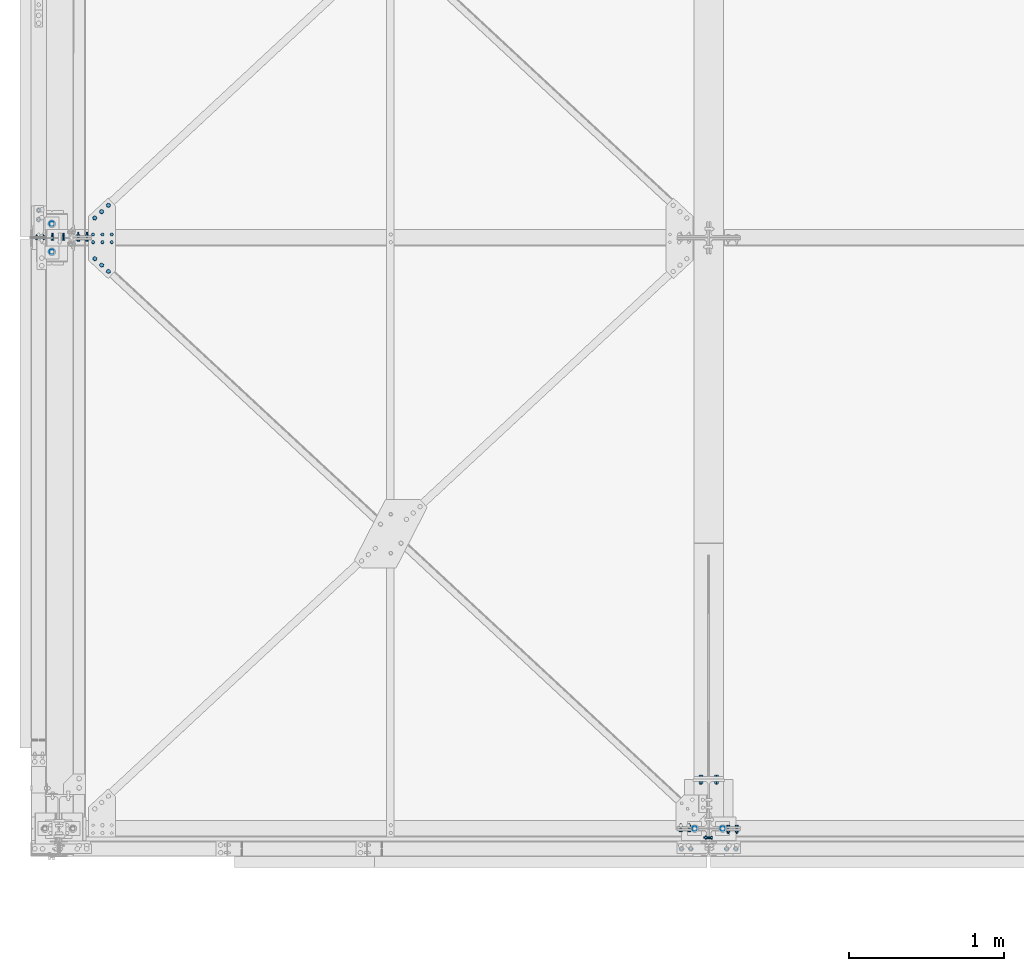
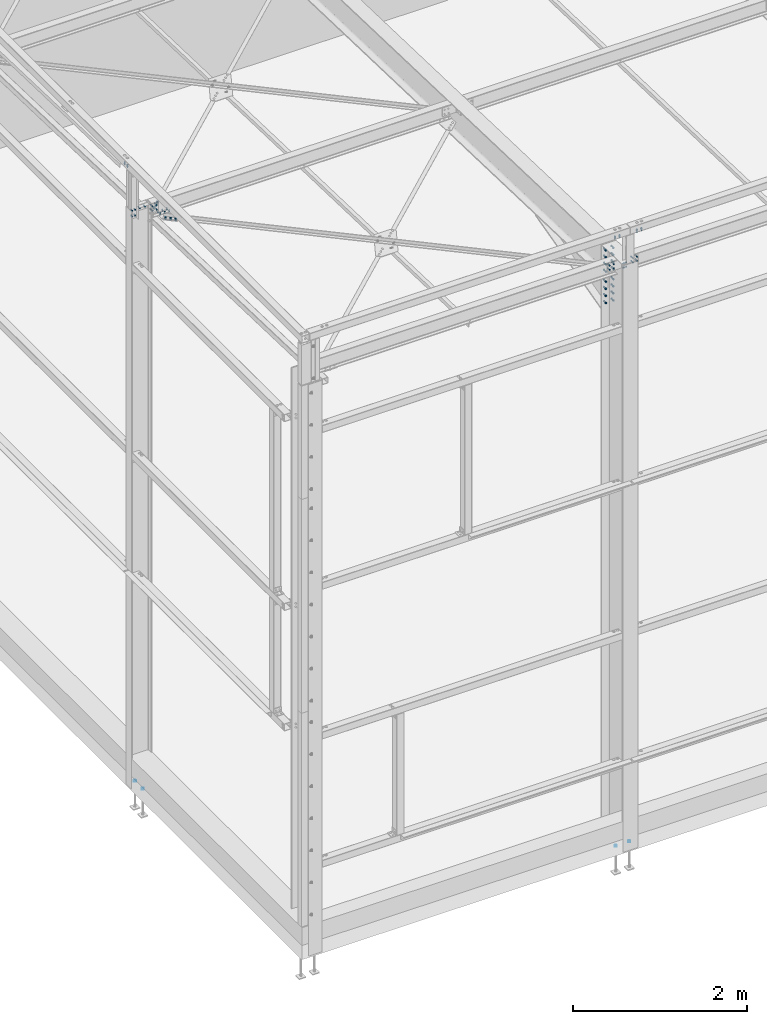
# One storey, part 142 of 362: 15 mechanical fasteners.
"""IFC2X3 building model written with IfcOpenShell, lengths in millimetres."""

from ifc_helpers import new_model, si_unit, frame, frame_2d, origin_with_axes, origin_2d_with_axis, place, context, subcontext, project, spatial, polyline, circle_curve, parameter, trimmed, segment, composite_curve, circle, outline, extrude, source, transform, mapped, material, type_object, element, save


model = new_model("IFC2X3")

# Units and contexts
model_context = context("Model", 3, precision=1e-05, world=origin_with_axes())
body_context = subcontext(model_context, "Body", "Model", "MODEL_VIEW")
ifc_project = project(units=[si_unit("LENGTHUNIT", "METRE", prefix="MILLI"), si_unit("AREAUNIT", "SQUARE_METRE"), si_unit("VOLUMEUNIT", "CUBIC_METRE"), si_unit("MASSUNIT", "GRAM", prefix="KILO"), si_unit("TIMEUNIT", "SECOND"), si_unit("PLANEANGLEUNIT", "RADIAN"), si_unit("SOLIDANGLEUNIT", "STERADIAN"), si_unit("THERMODYNAMICTEMPERATUREUNIT", "DEGREE_CELSIUS"), si_unit("LUMINOUSINTENSITYUNIT", "LUMEN")], contexts=[model_context])

# Site, building, storey
site_placement = place(None, origin_with_axes())
site = spatial("IfcSite", under=ifc_project, at=site_placement, Name="Undefined", CompositionType="ELEMENT")
building_placement = place(site_placement, origin_with_axes())
building = spatial("IfcBuilding", under=site, at=building_placement, Name="Undefined", CompositionType="ELEMENT")
storey_placement = place(building_placement, origin_with_axes())
storey = spatial("IfcBuildingStorey", under=building, at=storey_placement, Name="Undefined", CompositionType="ELEMENT", Elevation=0.0)

# Mechanical fasteners
ifc_material_1 = material(Name="8.8-SB-ZINGUE")
mechanical_fastener_type = type_object("IfcMechanicalFastenerType", Name="Bolt assembly")
shared_shape_1 = source(origin_with_axes(), body_context, "Body", "SweptSolid", [
    extrude(circle(Radius=7.0, at=origin_2d_with_axis()), frame((0.0, -8.39481938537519, 0.0), z_axis=(0.0, 1.0, 0.0), x_axis=(1.0, 0.0, 0.0)), (0.0, 0.0, 1.0), 8.5),
    extrude(circle(Radius=7.0, at=origin_2d_with_axis()), frame((0.0, -0.100011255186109, 0.0), z_axis=(0.0, 1.0, 0.0), x_axis=(1.0, 0.0, 0.0)), (0.0, 0.0, 1.0), 6.1),
    extrude(outline(polyline([(10.39230484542, 0.0), (5.19615242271, 9.00000000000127), (-5.19615242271, 9.00000000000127), (-10.39230484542, 0.0), (-5.19615242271, -9.00000000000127), (5.19615242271, -9.00000000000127), (10.39230484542, 0.0)])), frame((0.0, -16.4148193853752, 0.0), z_axis=(0.0, 1.0, 0.0), x_axis=(1.0, 0.0, 0.0)), (0.0, 0.0, 1.0), 7.92),
    extrude(circle(Radius=6.0, at=origin_2d_with_axis()), frame((0.0, -8.49481938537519, 0.0), z_axis=(0.0, 1.0, 0.0), x_axis=(1.0, 0.0, 0.0)), (0.0, 0.0, 1.0), 30.0),
    extrude(outline(polyline([(11.5008173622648, 0.0), (5.7504086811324, 9.96000000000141), (-5.7504086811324, 9.96000000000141), (-11.5008173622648, 0.0), (-5.7504086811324, -9.96000000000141), (5.7504086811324, -9.96000000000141), (11.5008173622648, 0.0)])), frame((0.0, 6.0, 0.0), z_axis=(0.0, 1.0, 0.0), x_axis=(1.0, 0.0, 0.0)), (0.0, 0.0, 1.0), 7.92),
])
mechanical_fastener_1_placement = place(storey_placement, frame((220.000000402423, 3796.86789997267, 7730.58503981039), z_axis=(3.14103090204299e-11, 0.999506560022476, -0.0314107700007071), x_axis=(1.0, 0.0, 0.0)))
element("IfcMechanicalFastener", 1, at=mechanical_fastener_1_placement, inside=storey, type_object=mechanical_fastener_type, material=ifc_material_1, Name="Bolt assembly", NominalDiameter=12.0, NominalLength=30.0, context=body_context, shape_type="MappedRepresentation", body=[
    mapped(shared_shape_1, transform((0.0, 0.0, 25.0))),
    mapped(shared_shape_1, transform((60.00000000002, -1.00044417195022e-11, 24.9999999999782))),
    mapped(shared_shape_1, transform((120.00000000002, -1.90993887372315e-11, 24.9999999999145))),
    mapped(shared_shape_1, transform((0.0, 0.0, -25.0))),
    mapped(shared_shape_1, transform((59.9999999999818, -8.18545231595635e-12, -25.0000000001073))),
    mapped(shared_shape_1, transform((119.999999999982, -1.72803993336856e-11, -25.0000000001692))),
])
shared_shape_2 = source(origin_with_axes(), body_context, "Body", "SweptSolid", [
    extrude(circle(Radius=9.0, at=origin_2d_with_axis()), frame((0.0, 2.90700750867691, 0.0), z_axis=(0.0, 1.0, 0.0), x_axis=(1.0, 0.0, 0.0)), (0.0, 0.0, 1.0), 5.1),
    extrude(circle(Radius=9.0, at=origin_2d_with_axis()), frame((0.0, -2.90345384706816, 0.0), z_axis=(0.0, 1.0, 0.0), x_axis=(1.0, 0.0, 0.0)), (0.0, 0.0, 1.0), 6.0),
    extrude(outline(polyline([(13.85640646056, 0.0), (6.92820323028, 12.0000000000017), (-6.92820323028, 12.0000000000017), (-13.85640646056, 0.0), (-6.92820323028, -12.0000000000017), (6.92820323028, -12.0000000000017), (13.85640646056, 0.0)])), frame((0.0, -13.5634538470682, 0.0), z_axis=(0.0, 1.0, 0.0), x_axis=(1.0, 0.0, 0.0)), (0.0, 0.0, 1.0), 10.56),
    extrude(circle(Radius=8.0, at=origin_2d_with_axis()), frame((0.0, -3.00345384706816, 0.0), z_axis=(0.0, 1.0, 0.0), x_axis=(1.0, 0.0, 0.0)), (0.0, 0.0, 1.0), 30.0),
    extrude(outline(polyline([(15.3344231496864, 0.0), (7.6672115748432, 13.2800000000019), (-7.6672115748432, 13.2800000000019), (-15.3344231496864, 0.0), (-7.6672115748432, -13.2800000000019), (7.6672115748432, -13.2800000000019), (15.3344231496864, 0.0)])), frame((0.0, 8.00700750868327, 0.0), z_axis=(0.0, 1.0, 0.0), x_axis=(1.0, 0.0, 0.0)), (0.0, 0.0, 1.0), 10.56),
])
mechanical_fastener_2_placement = place(storey_placement, frame((230.964479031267, 3927.74297295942, 7723.46712835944), z_axis=(-0.680837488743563, 0.73207308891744, -0.0230066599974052), x_axis=(0.732434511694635, 0.680501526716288, -0.0213859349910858)))
element("IfcMechanicalFastener", 2, at=mechanical_fastener_2_placement, inside=storey, type_object=mechanical_fastener_type, material=ifc_material_1, Name="Bolt assembly", NominalDiameter=16.0, NominalLength=30.0, context=body_context, shape_type="MappedRepresentation", body=[
    mapped(shared_shape_2, transform((0.0, 0.0, 0.0))),
    mapped(shared_shape_2, transform((60.0, 0.0, 0.0))),
    mapped(shared_shape_2, transform((120.0, 0.0, 0.0))),
])
shared_shape_3 = source(origin_with_axes(), body_context, "Body", "SweptSolid", [
    extrude(circle(Radius=9.0, at=origin_2d_with_axis()), frame((0.0, -7.8947683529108, 0.0), z_axis=(0.0, 1.0, 0.0), x_axis=(1.0, 0.0, 0.0)), (0.0, 0.0, 1.0), 5.0),
    extrude(circle(Radius=9.0, at=origin_2d_with_axis()), frame((0.0, -3.10345380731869, 0.0), z_axis=(0.0, 1.0, 0.0), x_axis=(1.0, 0.0, 0.0)), (0.0, 0.0, 1.0), 6.1),
    extrude(outline(polyline([(13.85640646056, 0.0), (6.92820323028, 12.0000000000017), (-6.92820323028, 12.0000000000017), (-13.85640646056, 0.0), (-6.92820323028, -12.0000000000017), (6.92820323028, -12.0000000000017), (13.85640646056, 0.0)])), frame((0.0, -18.5547683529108, 0.0), z_axis=(0.0, 1.0, 0.0), x_axis=(1.0, 0.0, 0.0)), (0.0, 0.0, 1.0), 10.56),
    extrude(circle(Radius=8.0, at=origin_2d_with_axis()), frame((0.0, -7.9947683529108, 0.0), z_axis=(0.0, 1.0, 0.0), x_axis=(1.0, 0.0, 0.0)), (0.0, 0.0, 1.0), 30.0),
    extrude(outline(polyline([(15.3344231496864, 0.0), (7.6672115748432, 13.2800000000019), (-7.6672115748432, 13.2800000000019), (-15.3344231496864, 0.0), (-7.6672115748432, -13.2800000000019), (7.6672115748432, -13.2800000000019), (15.3344231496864, 0.0)])), frame((0.0, 2.99654619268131, 0.0), z_axis=(0.0, 1.0, 0.0), x_axis=(1.0, 0.0, 0.0)), (0.0, 0.0, 1.0), 10.56),
])
mechanical_fastener_3_placement = place(storey_placement, frame((230.964192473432, 3665.80432149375, 7731.69900249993), z_axis=(0.680838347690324, 0.732072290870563, -0.0230066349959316), x_axis=(0.73243371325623, -0.680502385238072, 0.0213859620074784)))
element("IfcMechanicalFastener", 3, at=mechanical_fastener_3_placement, inside=storey, type_object=mechanical_fastener_type, material=ifc_material_1, Name="Bolt assembly", NominalDiameter=16.0, NominalLength=30.0, context=body_context, shape_type="MappedRepresentation", body=[
    mapped(shared_shape_3, transform((0.0, 0.0, 0.0))),
    mapped(shared_shape_3, transform((60.0, 0.0, 0.0))),
    mapped(shared_shape_3, transform((120.0, 0.0, 0.0))),
])
shared_shape_4 = source(origin_with_axes(), body_context, "Body", "SweptSolid", [
    extrude(circle(Radius=7.0, at=origin_2d_with_axis()), frame((0.0, -3.29999884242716, 0.0), z_axis=(0.0, 1.0, 0.0), x_axis=(1.0, 0.0, 0.0)), (0.0, 0.0, 1.0), 6.6),
    extrude(circle(Radius=7.0, at=origin_2d_with_axis()), frame((0.0, 3.40000111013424, 0.0), z_axis=(0.0, 1.0, 0.0), x_axis=(1.0, 0.0, 0.0)), (0.0, 0.0, 1.0), 5.1),
    extrude(circle(Radius=7.0, at=origin_2d_with_axis()), frame((0.0, -8.40001950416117, 0.0), z_axis=(0.0, 1.0, 0.0), x_axis=(1.0, 0.0, 0.0)), (0.0, 0.0, 1.0), 5.0),
    extrude(outline(polyline([(10.39230484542, 0.0), (5.19615242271, 9.00000000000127), (-5.19615242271, 9.00000000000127), (-10.39230484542, 0.0), (-5.19615242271, -9.00000000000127), (5.19615242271, -9.00000000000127), (10.39230484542, 0.0)])), frame((0.0, -16.4200195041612, 0.0), z_axis=(0.0, 1.0, 0.0), x_axis=(1.0, 0.0, 0.0)), (0.0, 0.0, 1.0), 7.92),
    extrude(circle(Radius=6.0, at=origin_2d_with_axis()), frame((0.0, -8.5, 0.0), z_axis=(0.0, 1.0, 0.0), x_axis=(1.0, 0.0, 0.0)), (0.0, 0.0, 1.0), 40.0),
    extrude(outline(polyline([(11.5008173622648, 0.0), (5.7504086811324, 9.96000000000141), (-5.7504086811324, 9.96000000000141), (-11.5008173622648, 0.0), (-5.7504086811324, -9.96000000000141), (5.7504086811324, -9.96000000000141), (11.5008173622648, 0.0)])), frame((0.0, 8.49999994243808, 0.0), z_axis=(0.0, 1.0, 0.0), x_axis=(1.0, 0.0, 0.0)), (0.0, 0.0, 1.0), 7.92),
])
mechanical_fastener_4_placement = place(storey_placement, frame((-5.0, 3799.99999888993, 7890.47018185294), z_axis=(-1.0, 0.0, 0.0), x_axis=(0.0, 0.0, 1.0)))
element("IfcMechanicalFastener", 4, at=mechanical_fastener_4_placement, inside=storey, type_object=mechanical_fastener_type, material=ifc_material_1, Name="Bolt assembly", NominalDiameter=12.0, NominalLength=40.0, context=body_context, shape_type="MappedRepresentation", body=[
    mapped(shared_shape_4, transform((0.0, 0.0, -35.0))),
    mapped(shared_shape_4, transform((0.0, 0.0, 35.0))),
])
shared_shape_5 = source(origin_with_axes(), body_context, "Body", "SweptSolid", [
    extrude(circle(Radius=7.0, at=origin_2d_with_axis()), frame((0.0, -3.89999843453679, 0.0), z_axis=(0.0, 1.0, 0.0), x_axis=(1.0, 0.0, 0.0)), (0.0, 0.0, 1.0), 4.0),
    extrude(outline(composite_curve([segment(polyline([(-7.0, 7.0), (7.0, 7.0)]), True, "CONTINUOUS"), segment(trimmed(circle_curve(frame_2d((7.0, 0.0), x_axis=(0.0, 1.0)), 7.0), [parameter(0.0)], [parameter(3.14159265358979)], False, "PARAMETER"), True, "CONTINUOUS"), segment(polyline([(7.0, -7.0), (-7.0, -7.0)]), True, "CONTINUOUS"), segment(trimmed(circle_curve(frame_2d((-7.0, 0.0), x_axis=(0.0, -1.0)), 7.0), [parameter(0.0)], [parameter(3.14159265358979)], False, "PARAMETER"), True, "DISCONTINUOUS")], self_intersect=False)), frame((0.0, -0.100011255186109, 0.0), z_axis=(0.0, 1.0, 0.0), x_axis=(1.0, 0.0, 0.0)), (0.0, 0.0, 1.0), 10.1),
    extrude(outline(polyline([(10.39230484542, 0.0), (5.19615242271, 9.00000000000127), (-5.19615242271, 9.00000000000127), (-10.39230484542, 0.0), (-5.19615242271, -9.00000000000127), (5.19615242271, -9.00000000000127), (10.39230484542, 0.0)])), frame((0.0, -11.9199984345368, 0.0), z_axis=(0.0, 1.0, 0.0), x_axis=(1.0, 0.0, 0.0)), (0.0, 0.0, 1.0), 7.92),
    extrude(circle(Radius=6.0, at=origin_2d_with_axis()), frame((0.0, -3.99999923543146, 0.0), z_axis=(0.0, 1.0, 0.0), x_axis=(1.0, 0.0, 0.0)), (0.0, 0.0, 1.0), 40.0),
    extrude(circle(Radius=10.8, at=origin_2d_with_axis()), frame((0.0, 10.0000000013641, 0.0), z_axis=(0.0, 1.0, 0.0), x_axis=(1.0, 0.0, 0.0)), (0.0, 0.0, 1.0), 3.96),
    extrude(outline(polyline([(11.5008173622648, 0.0), (5.7504086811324, 9.96000000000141), (-5.7504086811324, 9.96000000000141), (-11.5008173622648, 0.0), (-5.7504086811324, -9.96000000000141), (5.7504086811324, -9.96000000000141), (11.5008173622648, 0.0)])), frame((0.0, 13.96, 0.0), z_axis=(0.0, 1.0, 0.0), x_axis=(1.0, 0.0, 0.0)), (0.0, 0.0, 1.0), 7.92),
])
mechanical_fastener_5_placement = place(storey_placement, frame((-129.999999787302, 3978.0, 8450.0), z_axis=(1.0, 0.0, 0.0), x_axis=(0.0, -1.0, 0.0)))
element("IfcMechanicalFastener", 5, at=mechanical_fastener_5_placement, inside=storey, type_object=mechanical_fastener_type, material=ifc_material_1, Name="Bolt assembly", NominalDiameter=12.0, NominalLength=40.0, context=body_context, shape_type="MappedRepresentation", body=[
    mapped(shared_shape_5, transform((0.0, 0.0, 0.0))),
    mapped(shared_shape_5, transform((60.0, 0.0, 0.0))),
])
shared_shape_6 = source(origin_with_axes(), body_context, "Body", "SweptSolid", [
    extrude(circle(Radius=7.0, at=origin_2d_with_axis()), frame((0.0, -3.89999843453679, 0.0), z_axis=(0.0, 1.0, 0.0), x_axis=(1.0, 0.0, 0.0)), (0.0, 0.0, 1.0), 4.0),
    extrude(outline(composite_curve([segment(polyline([(-7.0, 7.0), (7.0, 7.0)]), True, "CONTINUOUS"), segment(trimmed(circle_curve(frame_2d((7.0, 0.0), x_axis=(0.0, 1.0)), 7.0), [parameter(0.0)], [parameter(3.14159265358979)], False, "PARAMETER"), True, "CONTINUOUS"), segment(polyline([(7.0, -7.0), (-7.0, -7.0)]), True, "CONTINUOUS"), segment(trimmed(circle_curve(frame_2d((-7.0, 0.0), x_axis=(0.0, -1.0)), 7.0), [parameter(0.0)], [parameter(3.14159265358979)], False, "PARAMETER"), True, "DISCONTINUOUS")], self_intersect=False)), frame((0.0, -0.100011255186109, 0.0), z_axis=(0.0, 1.0, 0.0), x_axis=(1.0, 0.0, 0.0)), (0.0, 0.0, 1.0), 10.1),
    extrude(outline(polyline([(10.39230484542, 0.0), (5.19615242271, 9.00000000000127), (-5.19615242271, 9.00000000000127), (-10.39230484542, 0.0), (-5.19615242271, -9.00000000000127), (5.19615242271, -9.00000000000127), (10.39230484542, 0.0)])), frame((0.0, -11.9199984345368, 0.0), z_axis=(0.0, 1.0, 0.0), x_axis=(1.0, 0.0, 0.0)), (0.0, 0.0, 1.0), 7.92),
    extrude(circle(Radius=6.0, at=origin_2d_with_axis()), frame((0.0, -3.99999923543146, 0.0), z_axis=(0.0, 1.0, 0.0), x_axis=(1.0, 0.0, 0.0)), (0.0, 0.0, 1.0), 40.0),
    extrude(circle(Radius=10.8, at=origin_2d_with_axis()), frame((0.0, 10.0000000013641, 0.0), z_axis=(0.0, 1.0, 0.0), x_axis=(1.0, 0.0, 0.0)), (0.0, 0.0, 1.0), 3.96),
    extrude(outline(polyline([(11.5008173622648, 0.0), (5.7504086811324, 9.96000000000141), (-5.7504086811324, 9.96000000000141), (-11.5008173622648, 0.0), (-5.7504086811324, -9.96000000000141), (5.7504086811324, -9.96000000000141), (11.5008173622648, 0.0)])), frame((0.0, 13.96, 0.0), z_axis=(0.0, 1.0, 0.0), x_axis=(1.0, 0.0, 0.0)), (0.0, 0.0, 1.0), 7.92),
])
mechanical_fastener_6_placement = place(storey_placement, frame((4005.00000320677, -130.000005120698, 8450.0), z_axis=(0.0, 1.0, 0.0), x_axis=(1.0, 0.0, 0.0)))
element("IfcMechanicalFastener", 6, at=mechanical_fastener_6_placement, inside=storey, type_object=mechanical_fastener_type, material=ifc_material_1, Name="Bolt assembly", NominalDiameter=12.0, NominalLength=40.0, context=body_context, shape_type="MappedRepresentation", body=[
    mapped(shared_shape_6, transform((0.0, 0.0, 0.0))),
    mapped(shared_shape_6, transform((60.0, 0.0, 0.0))),
])
shared_shape_7 = source(origin_with_axes(), body_context, "Body", "SweptSolid", [
    extrude(circle(Radius=7.0, at=origin_2d_with_axis()), frame((0.0, -3.89999843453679, 0.0), z_axis=(0.0, 1.0, 0.0), x_axis=(1.0, 0.0, 0.0)), (0.0, 0.0, 1.0), 4.0),
    extrude(outline(composite_curve([segment(polyline([(-7.0, 7.0), (7.0, 7.0)]), True, "CONTINUOUS"), segment(trimmed(circle_curve(frame_2d((7.0, 0.0), x_axis=(0.0, 1.0)), 7.0), [parameter(0.0)], [parameter(3.14159265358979)], False, "PARAMETER"), True, "CONTINUOUS"), segment(polyline([(7.0, -7.0), (-7.0, -7.0)]), True, "CONTINUOUS"), segment(trimmed(circle_curve(frame_2d((-7.0, 0.0), x_axis=(0.0, -1.0)), 7.0), [parameter(0.0)], [parameter(3.14159265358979)], False, "PARAMETER"), True, "DISCONTINUOUS")], self_intersect=False)), frame((0.0, -0.100011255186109, 0.0), z_axis=(0.0, 1.0, 0.0), x_axis=(1.0, 0.0, 0.0)), (0.0, 0.0, 1.0), 10.1),
    extrude(outline(polyline([(10.39230484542, 0.0), (5.19615242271, 9.00000000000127), (-5.19615242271, 9.00000000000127), (-10.39230484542, 0.0), (-5.19615242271, -9.00000000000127), (5.19615242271, -9.00000000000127), (10.39230484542, 0.0)])), frame((0.0, -11.9199984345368, 0.0), z_axis=(0.0, 1.0, 0.0), x_axis=(1.0, 0.0, 0.0)), (0.0, 0.0, 1.0), 7.92),
    extrude(circle(Radius=6.0, at=origin_2d_with_axis()), frame((0.0, -3.99999923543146, 0.0), z_axis=(0.0, 1.0, 0.0), x_axis=(1.0, 0.0, 0.0)), (0.0, 0.0, 1.0), 40.0),
    extrude(circle(Radius=10.8, at=origin_2d_with_axis()), frame((0.0, 10.0000000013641, 0.0), z_axis=(0.0, 1.0, 0.0), x_axis=(1.0, 0.0, 0.0)), (0.0, 0.0, 1.0), 3.96),
    extrude(outline(polyline([(11.5008173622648, 0.0), (5.7504086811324, 9.96000000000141), (-5.7504086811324, 9.96000000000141), (-11.5008173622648, 0.0), (-5.7504086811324, -9.96000000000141), (5.7504086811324, -9.96000000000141), (11.5008173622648, 0.0)])), frame((0.0, 13.96, 0.0), z_axis=(0.0, 1.0, 0.0), x_axis=(1.0, 0.0, 0.0)), (0.0, 0.0, 1.0), 7.92),
])
mechanical_fastener_7_placement = place(storey_placement, frame((4355.00000308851, -130.000005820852, 8450.0), z_axis=(0.0, -1.0, 0.0), x_axis=(-1.0, 0.0, 0.0)))
element("IfcMechanicalFastener", 7, at=mechanical_fastener_7_placement, inside=storey, type_object=mechanical_fastener_type, material=ifc_material_1, Name="Bolt assembly", NominalDiameter=12.0, NominalLength=40.0, context=body_context, shape_type="MappedRepresentation", body=[
    mapped(shared_shape_7, transform((0.0, 0.0, 0.0))),
    mapped(shared_shape_7, transform((60.0, 0.0, 0.0))),
])
shared_shape_8 = source(origin_with_axes(), body_context, "Body", "SweptSolid", [
    extrude(circle(Radius=7.0, at=origin_2d_with_axis()), frame((0.0, -2.80035671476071, 0.0), z_axis=(0.0, 1.0, 0.0), x_axis=(1.0, 0.0, 0.0)), (0.0, 0.0, 1.0), 5.6),
    extrude(circle(Radius=7.0, at=origin_2d_with_axis()), frame((0.0, -12.9003023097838, 0.0), z_axis=(0.0, 1.0, 0.0), x_axis=(1.0, 0.0, 0.0)), (0.0, 0.0, 1.0), 10.0),
    extrude(circle(Radius=7.0, at=origin_2d_with_axis()), frame((0.0, 2.90055997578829, 0.0), z_axis=(0.0, 1.0, 0.0), x_axis=(1.0, 0.0, 0.0)), (0.0, 0.0, 1.0), 10.1),
    extrude(outline(polyline([(10.39230484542, 0.0), (5.19615242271, 9.00000000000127), (-5.19615242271, 9.00000000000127), (-10.39230484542, 0.0), (-5.19615242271, -9.00000000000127), (5.19615242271, -9.00000000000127), (10.39230484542, 0.0)])), frame((0.0, -20.9203023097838, 0.0), z_axis=(0.0, 1.0, 0.0), x_axis=(1.0, 0.0, 0.0)), (0.0, 0.0, 1.0), 7.92),
    extrude(circle(Radius=6.0, at=origin_2d_with_axis()), frame((0.0, -13.0003023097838, 0.0), z_axis=(0.0, 1.0, 0.0), x_axis=(1.0, 0.0, 0.0)), (0.0, 0.0, 1.0), 50.0),
    extrude(outline(polyline([(11.5008173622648, 0.0), (5.7504086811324, 9.96000000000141), (-5.7504086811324, 9.96000000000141), (-11.5008173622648, 0.0), (-5.7504086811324, -9.96000000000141), (5.7504086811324, -9.96000000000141), (11.5008173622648, 0.0)])), frame((0.0, 13.0005599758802, 0.0), z_axis=(0.0, 1.0, 0.0), x_axis=(1.0, 0.0, 0.0)), (0.0, 0.0, 1.0), 7.92),
])
mechanical_fastener_8_placement = place(storey_placement, frame((179.999999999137, 3800.00586465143, 7830.53059417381), z_axis=(-1.05403257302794e-09, -0.0314112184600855, -0.999506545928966), x_axis=(-0.999999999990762, -4.28499999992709e-06, 3.38999996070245e-07)))
element("IfcMechanicalFastener", 8, at=mechanical_fastener_8_placement, inside=storey, type_object=mechanical_fastener_type, material=ifc_material_1, Name="Bolt assembly", NominalDiameter=12.0, NominalLength=50.0, context=body_context, shape_type="MappedRepresentation", body=[
    mapped(shared_shape_8, transform((0.0, 0.0, -30.0))),
    mapped(shared_shape_8, transform((55.0000000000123, 3.45607986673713e-11, -30.0000000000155))),
    mapped(shared_shape_8, transform((0.0, 0.0, 30.0))),
    mapped(shared_shape_8, transform((54.9999999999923, 3.45607986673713e-11, 29.9999999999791))),
])
shared_shape_9 = source(origin_with_axes(), body_context, "Body", "SweptSolid", [
    extrude(circle(Radius=7.0, at=origin_2d_with_axis()), frame((0.0, -5.1000000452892, 0.0), z_axis=(0.0, 1.0, 0.0), x_axis=(1.0, 0.0, 0.0)), (0.0, 0.0, 1.0), 10.2),
    extrude(circle(Radius=7.0, at=origin_2d_with_axis()), frame((0.0, -14.899999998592, 0.0), z_axis=(0.0, 1.0, 0.0), x_axis=(1.0, 0.0, 0.0)), (0.0, 0.0, 1.0), 10.0),
    extrude(circle(Radius=7.0, at=origin_2d_with_axis()), frame((0.0, 4.9000000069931, 0.0), z_axis=(0.0, 1.0, 0.0), x_axis=(1.0, 0.0, 0.0)), (0.0, 0.0, 1.0), 10.1),
    extrude(outline(polyline([(10.39230484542, 0.0), (5.19615242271, 9.00000000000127), (-5.19615242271, 9.00000000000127), (-10.39230484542, 0.0), (-5.19615242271, -9.00000000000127), (5.19615242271, -9.00000000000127), (10.39230484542, 0.0)])), frame((0.0, -22.919999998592, 0.0), z_axis=(0.0, 1.0, 0.0), x_axis=(1.0, 0.0, 0.0)), (0.0, 0.0, 1.0), 7.92),
    extrude(circle(Radius=6.0, at=origin_2d_with_axis()), frame((0.0, -14.999999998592, 0.0), z_axis=(0.0, 1.0, 0.0), x_axis=(1.0, 0.0, 0.0)), (0.0, 0.0, 1.0), 50.0),
    extrude(outline(polyline([(11.5008173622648, 0.0), (5.7504086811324, 9.96000000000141), (-5.7504086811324, 9.96000000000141), (-11.5008173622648, 0.0), (-5.7504086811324, -9.96000000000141), (5.7504086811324, -9.96000000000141), (11.5008173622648, 0.0)])), frame((0.0, 15.0000000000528, 0.0), z_axis=(0.0, 1.0, 0.0), x_axis=(1.0, 0.0, 0.0)), (0.0, 0.0, 1.0), 7.92),
])
mechanical_fastener_9_placement = place(storey_placement, frame((4180.0, -57.9712850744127, 7951.77417755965), z_axis=(7.58071938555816e-11, 0.0314107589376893, 0.999506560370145), x_axis=(3.14103090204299e-11, 0.999506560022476, -0.0314107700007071)))
element("IfcMechanicalFastener", 9, at=mechanical_fastener_9_placement, inside=storey, type_object=mechanical_fastener_type, material=ifc_material_1, Name="Bolt assembly", NominalDiameter=12.0, NominalLength=50.0, context=body_context, shape_type="MappedRepresentation", body=[
    mapped(shared_shape_9, transform((0.0, 0.0, -30.0))),
    mapped(shared_shape_9, transform((0.0, 0.0, 30.0))),
])
ifc_material_2 = material(Name="8.8")
shared_shape_10 = source(origin_with_axes(), body_context, "Body", "SweptSolid", [
    extrude(circle(Radius=7.0, at=origin_2d_with_axis()), frame((0.0, -5.60090332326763, 0.0), z_axis=(0.0, 1.0, 0.0), x_axis=(1.0, 0.0, 0.0)), (0.0, 0.0, 1.0), 5.6),
    extrude(circle(Radius=7.0, at=origin_2d_with_axis()), frame((0.0, -15.7008623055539, 0.0), z_axis=(0.0, 1.0, 0.0), x_axis=(1.0, 0.0, 0.0)), (0.0, 0.0, 1.0), 10.0),
    extrude(circle(Radius=7.0, at=origin_2d_with_axis()), frame((0.0, 0.1, 0.0), z_axis=(0.0, 1.0, 0.0), x_axis=(1.0, 0.0, 0.0)), (0.0, 0.0, 1.0), 10.1),
    extrude(outline(polyline([(10.96965511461, 0.0), (5.484827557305, 9.50000000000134), (-5.484827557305, 9.50000000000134), (-10.96965511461, 0.0), (-5.484827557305, -9.50000000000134), (5.484827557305, -9.50000000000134), (10.96965511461, 0.0)])), frame((0.0, -23.8008759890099, 0.0), z_axis=(0.0, 1.0, 0.0), x_axis=(1.0, 0.0, 0.0)), (0.0, 0.0, 1.0), 8.0),
    extrude(circle(Radius=6.0, at=origin_2d_with_axis()), frame((0.0, -15.8008623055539, 0.0), z_axis=(0.0, 1.0, 0.0), x_axis=(1.0, 0.0, 0.0)), (0.0, 0.0, 1.0), 45.0),
    extrude(outline(polyline([(10.39230484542, 0.0), (5.19615242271, 9.00000000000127), (-5.19615242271, 9.00000000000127), (-10.39230484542, 0.0), (-5.19615242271, -9.00000000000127), (5.19615242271, -9.00000000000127), (10.39230484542, 0.0)])), frame((0.0, 10.1999997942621, 0.0), z_axis=(0.0, 1.0, 0.0), x_axis=(1.0, 0.0, 0.0)), (0.0, 0.0, 1.0), 10.8),
])
mechanical_fastener_10_placement = place(storey_placement, frame((4000.00000000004, 2.79957495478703, 7949.86435376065), z_axis=(7.58071938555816e-11, 0.0314107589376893, 0.999506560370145), x_axis=(1.0, 0.0, 0.0)))
element("IfcMechanicalFastener", 10, at=mechanical_fastener_10_placement, inside=storey, type_object=mechanical_fastener_type, material=ifc_material_2, Name="Bolt assembly", NominalDiameter=12.0, NominalLength=45.0, context=body_context, shape_type="MappedRepresentation", body=[
    mapped(shared_shape_10, transform((0.0, 0.0, -30.0))),
    mapped(shared_shape_10, transform((55.0000000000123, 3.45607986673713e-11, -30.0000000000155))),
    mapped(shared_shape_10, transform((0.0, 0.0, 30.0))),
    mapped(shared_shape_10, transform((54.9999999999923, 3.45607986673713e-11, 29.9999999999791))),
])
shared_shape_11 = source(origin_with_axes(), body_context, "Body", "SweptSolid", [
    extrude(circle(Radius=7.0, at=origin_2d_with_axis()), frame((0.0, -5.59995888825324, 0.0), z_axis=(0.0, 1.0, 0.0), x_axis=(1.0, 0.0, 0.0)), (0.0, 0.0, 1.0), 5.6),
    extrude(circle(Radius=7.0, at=origin_2d_with_axis()), frame((0.0, 0.1, 0.0), z_axis=(0.0, 1.0, 0.0), x_axis=(1.0, 0.0, 0.0)), (0.0, 0.0, 1.0), 10.1),
    extrude(circle(Radius=7.0, at=origin_2d_with_axis()), frame((0.0, -15.7008623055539, 0.0), z_axis=(0.0, 1.0, 0.0), x_axis=(1.0, 0.0, 0.0)), (0.0, 0.0, 1.0), 10.0),
    extrude(outline(polyline([(10.96965511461, 0.0), (5.484827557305, 9.50000000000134), (-5.484827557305, 9.50000000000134), (-10.96965511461, 0.0), (-5.484827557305, -9.50000000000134), (5.484827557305, -9.50000000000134), (10.96965511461, 0.0)])), frame((0.0, -23.8008759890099, 0.0), z_axis=(0.0, 1.0, 0.0), x_axis=(1.0, 0.0, 0.0)), (0.0, 0.0, 1.0), 8.0),
    extrude(circle(Radius=6.0, at=origin_2d_with_axis()), frame((0.0, -15.8008623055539, 0.0), z_axis=(0.0, 1.0, 0.0), x_axis=(1.0, 0.0, 0.0)), (0.0, 0.0, 1.0), 45.0),
    extrude(outline(polyline([(10.39230484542, 0.0), (5.19615242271, 9.00000000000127), (-5.19615242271, 9.00000000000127), (-10.39230484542, 0.0), (-5.19615242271, -9.00000000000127), (5.19615242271, -9.00000000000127), (10.39230484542, 0.0)])), frame((0.0, 10.1999997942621, 0.0), z_axis=(0.0, 1.0, 0.0), x_axis=(1.0, 0.0, 0.0)), (0.0, 0.0, 1.0), 10.8),
])
mechanical_fastener_11_placement = place(storey_placement, frame((4360.0, -2.79852358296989, 7950.04028366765), z_axis=(7.58071938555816e-11, 0.0314107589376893, 0.999506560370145), x_axis=(-1.0, 0.0, 0.0)))
element("IfcMechanicalFastener", 11, at=mechanical_fastener_11_placement, inside=storey, type_object=mechanical_fastener_type, material=ifc_material_2, Name="Bolt assembly", NominalDiameter=12.0, NominalLength=45.0, context=body_context, shape_type="MappedRepresentation", body=[
    mapped(shared_shape_11, transform((0.0, 0.0, -30.0))),
    mapped(shared_shape_11, transform((55.0000000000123, 3.45607986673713e-11, -30.0000000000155))),
    mapped(shared_shape_11, transform((0.0, 0.0, 30.0))),
    mapped(shared_shape_11, transform((54.9999999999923, 3.45607986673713e-11, 29.9999999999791))),
])
shared_shape_12 = source(origin_with_axes(), body_context, "Body", "SweptSolid", [
    extrude(circle(Radius=9.0, at=origin_2d_with_axis()), frame((0.0, -0.100011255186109, 0.0), z_axis=(0.0, 1.0, 0.0), x_axis=(1.0, 0.0, 0.0)), (0.0, 0.0, 1.0), 16.1),
    extrude(circle(Radius=9.0, at=origin_2d_with_axis()), frame((0.0, -14.899999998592, 0.0), z_axis=(0.0, 1.0, 0.0), x_axis=(1.0, 0.0, 0.0)), (0.0, 0.0, 1.0), 15.0),
    extrude(outline(polyline([(13.85640646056, 0.0), (6.92820323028, 12.0000000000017), (-6.92820323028, 12.0000000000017), (-13.85640646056, 0.0), (-6.92820323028, -12.0000000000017), (6.92820323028, -12.0000000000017), (13.85640646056, 0.0)])), frame((0.0, -25.0000000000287, 0.0), z_axis=(0.0, 1.0, 0.0), x_axis=(1.0, 0.0, 0.0)), (0.0, 0.0, 1.0), 10.0),
    extrude(circle(Radius=8.0, at=origin_2d_with_axis()), frame((0.0, -14.999999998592, 0.0), z_axis=(0.0, 1.0, 0.0), x_axis=(1.0, 0.0, 0.0)), (0.0, 0.0, 1.0), 50.0),
    extrude(outline(polyline([(13.85640646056, 0.0), (6.92820323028, 12.0000000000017), (-6.92820323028, 12.0000000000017), (-13.85640646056, 0.0), (-6.92820323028, -12.0000000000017), (6.92820323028, -12.0000000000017), (13.85640646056, 0.0)])), frame((0.0, 15.9999999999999, 0.0), z_axis=(0.0, 1.0, 0.0), x_axis=(1.0, 0.0, 0.0)), (0.0, 0.0, 1.0), 14.8),
])
mechanical_fastener_12_placement = place(storey_placement, frame((4180.0, 319.999999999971, 7959.9386580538), z_axis=(-1.0, 0.0, 0.0), x_axis=(0.0, 0.0, -1.0)))
element("IfcMechanicalFastener", 12, at=mechanical_fastener_12_placement, inside=storey, type_object=mechanical_fastener_type, material=ifc_material_2, Name="Bolt assembly", NominalDiameter=16.0, NominalLength=50.0, context=body_context, shape_type="MappedRepresentation", body=[
    mapped(shared_shape_12, transform((0.0, 0.0, -50.0))),
    mapped(shared_shape_12, transform((100.0, 0.0, -50.0))),
    mapped(shared_shape_12, transform((200.0, 0.0, -50.0))),
    mapped(shared_shape_12, transform((300.0, 0.0, -50.0))),
    mapped(shared_shape_12, transform((440.0, 0.0, -50.0))),
    mapped(shared_shape_12, transform((540.0, 0.0, -50.0))),
    mapped(shared_shape_12, transform((640.0, 0.0, -50.0))),
    mapped(shared_shape_12, transform((740.0, 0.0, -50.0))),
    mapped(shared_shape_12, transform((0.0, 0.0, 50.0))),
    mapped(shared_shape_12, transform((100.0, 0.0, 50.0))),
    mapped(shared_shape_12, transform((200.0, 0.0, 50.0))),
    mapped(shared_shape_12, transform((300.0, 0.0, 50.0))),
    mapped(shared_shape_12, transform((440.0, 0.0, 50.0))),
    mapped(shared_shape_12, transform((540.0, 0.0, 50.0))),
    mapped(shared_shape_12, transform((640.0, 0.0, 50.0))),
    mapped(shared_shape_12, transform((740.0, 0.0, 50.0))),
])
shared_shape_13 = source(origin_with_axes(), body_context, "Body", "SweptSolid", [
    extrude(circle(Radius=7.0, at=origin_2d_with_axis()), frame((0.0, -3.29999884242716, 0.0), z_axis=(0.0, 1.0, 0.0), x_axis=(1.0, 0.0, 0.0)), (0.0, 0.0, 1.0), 6.6),
    extrude(circle(Radius=7.0, at=origin_2d_with_axis()), frame((0.0, 3.19999995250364, 0.0), z_axis=(0.0, 1.0, 0.0), x_axis=(1.0, 0.0, 0.0)), (0.0, 0.0, 1.0), 4.1),
    extrude(circle(Radius=7.0, at=origin_2d_with_axis()), frame((0.0, -7.19999995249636, 0.0), z_axis=(0.0, 1.0, 0.0), x_axis=(1.0, 0.0, 0.0)), (0.0, 0.0, 1.0), 4.0),
    extrude(outline(polyline([(10.39230484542, 0.0), (5.19615242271, 9.00000000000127), (-5.19615242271, 9.00000000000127), (-10.39230484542, 0.0), (-5.19615242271, -9.00000000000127), (5.19615242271, -9.00000000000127), (10.39230484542, 0.0)])), frame((0.0, -15.2199999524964, 0.0), z_axis=(0.0, 1.0, 0.0), x_axis=(1.0, 0.0, 0.0)), (0.0, 0.0, 1.0), 7.92),
    extrude(circle(Radius=6.0, at=origin_2d_with_axis()), frame((0.0, -7.29999968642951, 0.0), z_axis=(0.0, 1.0, 0.0), x_axis=(1.0, 0.0, 0.0)), (0.0, 0.0, 1.0), 30.0),
    extrude(outline(polyline([(11.5008173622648, 0.0), (5.7504086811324, 9.96000000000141), (-5.7504086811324, 9.96000000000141), (-11.5008173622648, 0.0), (-5.7504086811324, -9.96000000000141), (5.7504086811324, -9.96000000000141), (11.5008173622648, 0.0)])), frame((0.0, 7.29999995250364, 0.0), z_axis=(0.0, 1.0, 0.0), x_axis=(1.0, 0.0, 0.0)), (0.0, 0.0, 1.0), 7.92),
])
mechanical_fastener_13_placement = place(storey_placement, frame((-120.000001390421, 3800.0, 7809.99916593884), z_axis=(-1.0, 0.0, 0.0), x_axis=(0.0, 0.0, 1.0)))
element("IfcMechanicalFastener", 13, at=mechanical_fastener_13_placement, inside=storey, type_object=mechanical_fastener_type, material=ifc_material_1, Name="Bolt assembly", NominalDiameter=12.0, NominalLength=30.0, context=body_context, shape_type="MappedRepresentation", body=[
    mapped(shared_shape_13, transform((1.70530256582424e-12, 0.0, -20.0))),
    mapped(shared_shape_13, transform((80.0, 0.0, -20.0))),
    mapped(shared_shape_13, transform((-1.70530256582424e-12, 0.0, 20.0))),
    mapped(shared_shape_13, transform((80.0, 0.0, 20.0))),
])
ifc_material_3 = material(Name="6.8")
shared_shape_14 = source(origin_with_axes(), body_context, "Body", "SweptSolid", [
    extrude(circle(Radius=13.0, at=origin_2d_with_axis()), frame((0.0, 0.0, 0.0), z_axis=(0.0, 1.0, 0.0), x_axis=(1.0, 0.0, 0.0)), (0.0, 0.0, 1.0), 10.1),
])
for number, where, z_axis, x_axis, name in (
    (14, (-45.0, 3800.00000007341, -200.0), (0.0, -1.0, 0.0), (-1.0, 0.0, 0.0), "Bolt assembly"),
    (15, (4180.00000007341, 0.0, -200.0), (-1.0, 0.0, 0.0), (0.0, 1.0, 0.0), "Bolt assembly"),
):
    element("IfcMechanicalFastener", number, at=place(storey_placement, frame(where, z_axis=z_axis, x_axis=x_axis)), inside=storey, type_object=mechanical_fastener_type, material=ifc_material_3, Name=name, NominalDiameter=24.0, NominalLength=10.0, context=body_context, shape_type="MappedRepresentation", body=[
        mapped(shared_shape_14, transform((-8.00355337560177e-11, 1.57342583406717e-10, -90.000000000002))),
        mapped(shared_shape_14, transform((8.36735125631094e-11, -1.5825207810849e-10, 90.0))),
    ])

save(model, "model.ifc")
